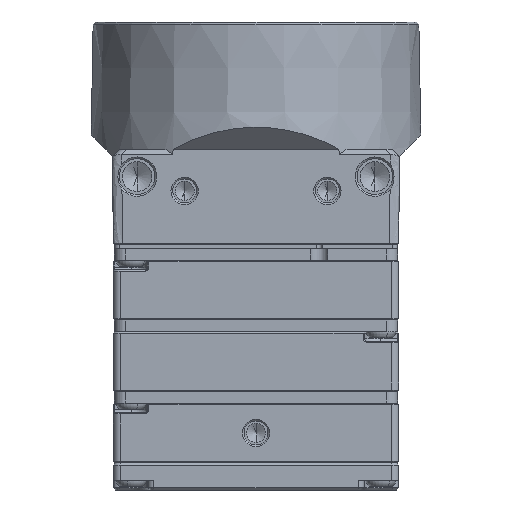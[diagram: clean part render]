
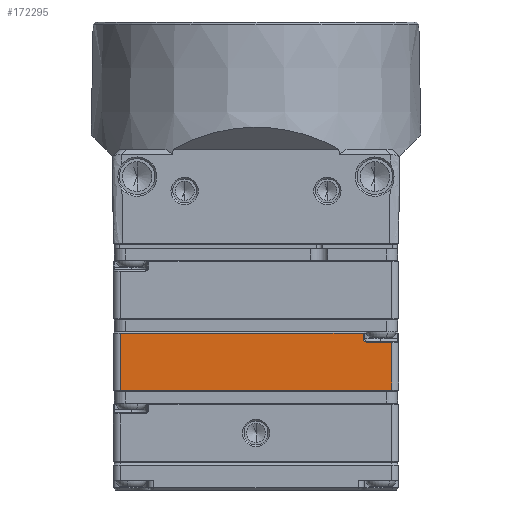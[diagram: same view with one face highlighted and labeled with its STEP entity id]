
A CAD part, front view. The second image highlights one B-rep face of the part: STEP entity #172295.
In plain terms, the highlighted planar face has unit normal (0, -1, 0).
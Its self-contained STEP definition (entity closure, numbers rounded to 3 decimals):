
#326 = VERTEX_POINT ( 'NONE', #15571 ) ;
#2001 = DIRECTION ( 'NONE',  ( 0., 1., 0. ) ) ;
#5128 = CARTESIAN_POINT ( 'NONE',  ( -11.4, -12., -12.25 ) ) ;
#14216 = VECTOR ( 'NONE', #84389, 1000. ) ;
#14339 = VECTOR ( 'NONE', #70266, 1000. ) ;
#15571 = CARTESIAN_POINT ( 'NONE',  ( -11.4, -12., -7.45 ) ) ;
#15752 = ORIENTED_EDGE ( 'NONE', *, *, #27751, .T. ) ;
#20331 = PLANE ( 'NONE',  #49320 ) ;
#23198 = EDGE_LOOP ( 'NONE', ( #56043, #133591, #108831, #27211, #15752, #44524, #128138 ) ) ;
#23638 = EDGE_CURVE ( 'NONE', #136686, #39124, #69428, .T. ) ;
#27211 = ORIENTED_EDGE ( 'NONE', *, *, #156704, .T. ) ;
#27751 = EDGE_CURVE ( 'NONE', #101281, #326, #117879, .T. ) ;
#28786 = LINE ( 'NONE', #151489, #14339 ) ;
#30985 = DIRECTION ( 'NONE',  ( 0., 1., 0. ) ) ;
#32031 = VERTEX_POINT ( 'NONE', #77943 ) ;
#36826 = VECTOR ( 'NONE', #56996, 1000. ) ;
#39124 = VERTEX_POINT ( 'NONE', #146781 ) ;
#43792 = CARTESIAN_POINT ( 'NONE',  ( 12., -12., -12.25 ) ) ;
#44221 = DIRECTION ( 'NONE',  ( 0., 0., 1. ) ) ;
#44524 = ORIENTED_EDGE ( 'NONE', *, *, #115939, .T. ) ;
#49320 = AXIS2_PLACEMENT_3D ( 'NONE', #59232, #30985, #44221 ) ;
#56043 = ORIENTED_EDGE ( 'NONE', *, *, #166900, .T. ) ;
#56996 = DIRECTION ( 'NONE',  ( 0., 0., 1. ) ) ;
#58540 = LINE ( 'NONE', #136328, #86380 ) ;
#59232 = CARTESIAN_POINT ( 'NONE',  ( 12., -12., -9.35 ) ) ;
#64728 = VECTOR ( 'NONE', #67553, 1000. ) ;
#66592 = CARTESIAN_POINT ( 'NONE',  ( 9.02, -12., -7.912 ) ) ;
#67553 = DIRECTION ( 'NONE',  ( -1., 0., 0. ) ) ;
#69428 = LINE ( 'NONE', #43792, #14216 ) ;
#69998 = CARTESIAN_POINT ( 'NONE',  ( 9.369, -12., -7.9 ) ) ;
#70266 = DIRECTION ( 'NONE',  ( -0.035, 0., 0.999 ) ) ;
#73877 = DIRECTION ( 'NONE',  ( 0., 0., -1. ) ) ;
#77943 = CARTESIAN_POINT ( 'NONE',  ( 9.369, -12., -8.25 ) ) ;
#84389 = DIRECTION ( 'NONE',  ( 1., 0., 0. ) ) ;
#86380 = VECTOR ( 'NONE', #164565, 1000. ) ;
#87419 = FACE_OUTER_BOUND ( 'NONE', #23198, .T. ) ;
#94965 = CARTESIAN_POINT ( 'NONE',  ( 11.4, -12., -9.35 ) ) ;
#97770 = LINE ( 'NONE', #140995, #113826 ) ;
#101281 = VERTEX_POINT ( 'NONE', #167524 ) ;
#104099 = VERTEX_POINT ( 'NONE', #66592 ) ;
#104677 = CARTESIAN_POINT ( 'NONE',  ( 12., -12., -7.45 ) ) ;
#107291 = EDGE_CURVE ( 'NONE', #32031, #104099, #174321, .T. ) ;
#108831 = ORIENTED_EDGE ( 'NONE', *, *, #107291, .T. ) ;
#112385 = VERTEX_POINT ( 'NONE', #149637 ) ;
#113826 = VECTOR ( 'NONE', #73877, 1000. ) ;
#115939 = EDGE_CURVE ( 'NONE', #326, #136686, #97770, .T. ) ;
#117879 = LINE ( 'NONE', #104677, #64728 ) ;
#126414 = EDGE_CURVE ( 'NONE', #112385, #32031, #58540, .T. ) ;
#128138 = ORIENTED_EDGE ( 'NONE', *, *, #23638, .T. ) ;
#133591 = ORIENTED_EDGE ( 'NONE', *, *, #126414, .T. ) ;
#136328 = CARTESIAN_POINT ( 'NONE',  ( 12., -12., -8.25 ) ) ;
#136686 = VERTEX_POINT ( 'NONE', #5128 ) ;
#137640 = AXIS2_PLACEMENT_3D ( 'NONE', #69998, #2001, #164505 ) ;
#140995 = CARTESIAN_POINT ( 'NONE',  ( -11.4, -12., -9.35 ) ) ;
#146781 = CARTESIAN_POINT ( 'NONE',  ( 11.4, -12., -12.25 ) ) ;
#149637 = CARTESIAN_POINT ( 'NONE',  ( 11.4, -12., -8.25 ) ) ;
#151489 = CARTESIAN_POINT ( 'NONE',  ( 9.073, -12., -9.452 ) ) ;
#156704 = EDGE_CURVE ( 'NONE', #104099, #101281, #28786, .T. ) ;
#164505 = DIRECTION ( 'NONE',  ( 0., 0., 1. ) ) ;
#164565 = DIRECTION ( 'NONE',  ( -1., 0., 0. ) ) ;
#165552 = LINE ( 'NONE', #94965, #36826 ) ;
#166900 = EDGE_CURVE ( 'NONE', #39124, #112385, #165552, .T. ) ;
#167524 = CARTESIAN_POINT ( 'NONE',  ( 9.003, -12., -7.45 ) ) ;
#172295 = ADVANCED_FACE ( 'NONE', ( #87419 ), #20331, .F. ) ;
#174321 = CIRCLE ( 'NONE', #137640, 0.35 ) ;
